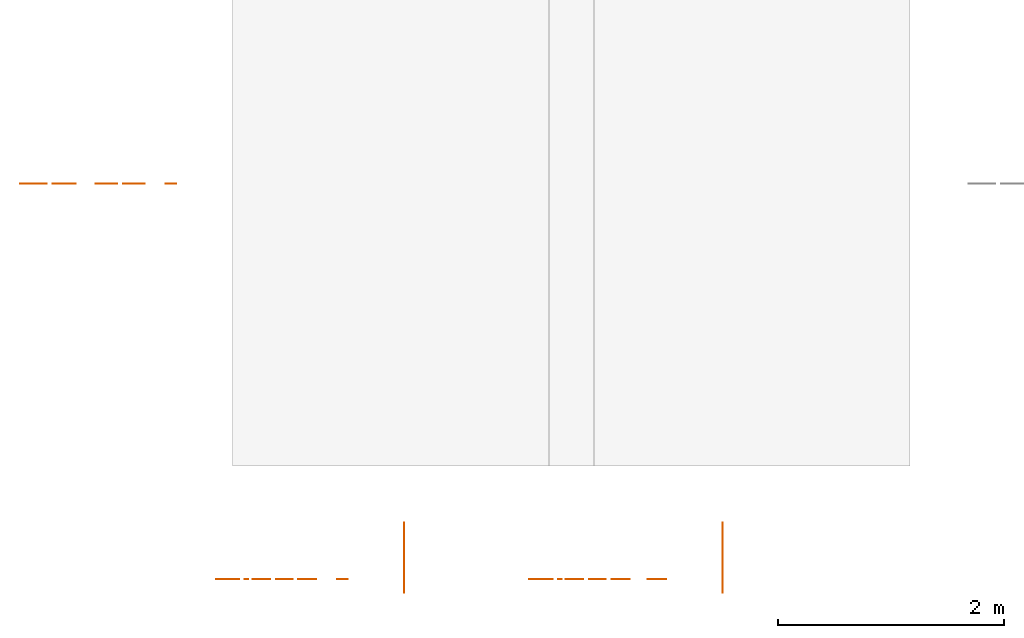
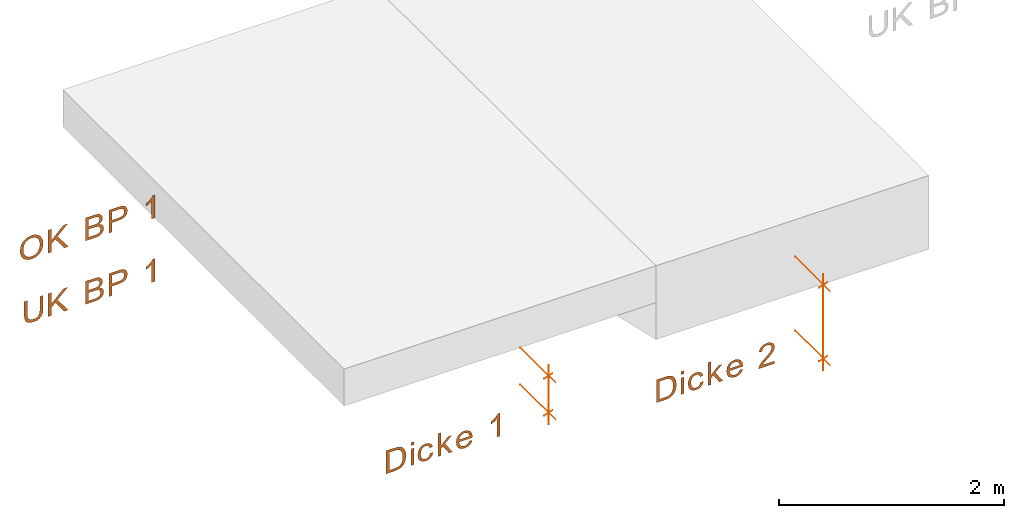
# One storey, part 2 of 3: 6 proxies, 6 elements without a shape of their own.
"""IFC4 building model written with IfcOpenShell, lengths in metres."""

from ifc_helpers import new_model, entity, si_unit, converted_unit, derived_unit, frame, origin, origin_with_axes, place, context, subcontext, project, spatial, open_shell, surface_model, source, transform, mapped, element, aggregate, save


model = new_model("IFC4")

# Units and contexts
model_context = context("Model", 3, precision=1e-05, world=origin())
body_context = subcontext(model_context, "Body", "Model", "MODEL_VIEW")
ifc_project = project(units=[si_unit("LENGTHUNIT", "METRE"), si_unit("AREAUNIT", "SQUARE_METRE"), si_unit("VOLUMEUNIT", "CUBIC_METRE"), si_unit("MASSUNIT", "GRAM", prefix="KILO"), converted_unit("PLANEANGLEUNIT", "DEGREE", entity("IfcPlaneAngleMeasure", 0.0174532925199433), si_unit("PLANEANGLEUNIT", "RADIAN"), dimensions=[0, 0, 0, 0, 0, 0, 0]), derived_unit("THERMALTRANSMITTANCEUNIT", [(si_unit("POWERUNIT", "WATT"), 1), (si_unit("THERMODYNAMICTEMPERATUREUNIT", "KELVIN"), -1), (si_unit("LENGTHUNIT", "METRE"), -2)]), derived_unit("VOLUMETRICFLOWRATEUNIT", [(si_unit("LENGTHUNIT", "METRE"), 3), (converted_unit("TIMEUNIT", "hour", entity("IfcTimeMeasure", 3600.0), si_unit("TIMEUNIT", "SECOND"), dimensions=[0, 0, 1, 0, 0, 0, 0]), -1), (si_unit("LENGTHUNIT", "METRE"), -1)])], contexts=[model_context])

# Site, building, storey
site_placement = place(None, origin())
site = spatial("IfcSite", under=ifc_project, at=site_placement, Name="Liegenschaft", CompositionType="ELEMENT")
building_placement = place(site_placement, origin())
building = spatial("IfcBuilding", under=site, at=building_placement, Name="Gebäude", CompositionType="ELEMENT")
storey_placement = place(building_placement, origin())
storey = spatial("IfcBuildingStorey", under=building, at=storey_placement, Name="Geschoss 01", CompositionType="ELEMENT", Elevation=0.0)

# Assembly, proxy
assembly_1_placement = place(storey_placement, origin())
assembly_1 = element("IfcElementAssembly", 1, at=assembly_1_placement, inside=storey, Name="SpatialDim_Group", PredefinedType="NOTDEFINED")
shared_shape_1 = source(origin_with_axes(), body_context, "Body", "SurfaceModel", [
    surface_model("IfcShellBasedSurfaceModel", [(0.388425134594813, 1.879375, 0.0), (0.357675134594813, 1.869, 0.0), (0.331300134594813, 1.851, 0.0), (0.311675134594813, 1.827, 0.0), (0.298675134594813, 1.797, 0.0), (0.294675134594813, 1.764, 0.0), (0.298425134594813, 1.7325, 0.0), (0.309675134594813, 1.704, 0.0), (0.329300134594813, 1.678625, 0.0), (0.355675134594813, 1.66, 0.0), (0.387800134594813, 1.64875, 0.0), (0.423675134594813, 1.645, 0.0), (0.458925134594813, 1.64875, 0.0), (0.489675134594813, 1.66, 0.0), (0.516550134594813, 1.678, 0.0), (0.536675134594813, 1.702, 0.0), (0.548800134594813, 1.731125, 0.0), (0.552675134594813, 1.764, 0.0), (0.543800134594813, 1.811875, 0.0), (0.517675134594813, 1.85, 0.0), (0.475550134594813, 1.87475, 0.0), (0.420675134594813, 1.883, 0.0), (0.380550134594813, 1.843, 0.0), (0.419675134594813, 1.849, 0.0), (0.467925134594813, 1.8425, 0.0), (0.499675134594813, 1.824, 0.0), (0.517675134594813, 1.79625, 0.0), (0.523675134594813, 1.764, 0.0), (0.520675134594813, 1.74, 0.0), (0.511675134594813, 1.719, 0.0), (0.496050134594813, 1.70175, 0.0), (0.476675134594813, 1.689, 0.0), (0.451675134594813, 1.681375, 0.0), (0.423675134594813, 1.679, 0.0), (0.381050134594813, 1.685, 0.0), (0.349675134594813, 1.703, 0.0), (0.329925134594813, 1.7305, 0.0), (0.323675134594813, 1.764, 0.0), (0.330300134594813, 1.797875, 0.0), (0.349675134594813, 1.825, 0.0)], [open_shell([[[0, 1, 2, 3, 4, 5, 6, 7, 8, 9, 10, 11, 12, 13, 14, 15, 16, 17, 18, 19, 20, 21], [22, 23, 24, 25, 26, 27, 28, 29, 30, 31, 32, 33, 34, 35, 36, 37, 38, 39]]], orient=[[False, False]])]),
    surface_model("IfcShellBasedSurfaceModel", [(0.298675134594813, 1.594, 0.0), (0.298675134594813, 1.561, 0.0), (0.385675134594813, 1.561, 0.0), (0.424675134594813, 1.521, 0.0), (0.298675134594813, 1.431, 0.0), (0.298675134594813, 1.387, 0.0), (0.447675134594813, 1.497, 0.0), (0.548675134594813, 1.393, 0.0), (0.548675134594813, 1.438, 0.0), (0.426675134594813, 1.561, 0.0), (0.548675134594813, 1.561, 0.0), (0.548675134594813, 1.594, 0.0)], [open_shell([[[0, 1, 2, 3, 4, 5, 6, 7, 8, 9, 10, 11]]], orient=[[False]])]),
    surface_model("IfcShellBasedSurfaceModel", [(0.298675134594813, 1.211, 0.0), (0.298675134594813, 1.116, 0.0), (0.299925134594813, 1.09375, 0.0), (0.302675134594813, 1.076, 0.0), (0.307925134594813, 1.061, 0.0), (0.314675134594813, 1.049, 0.0), (0.325175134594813, 1.038375, 0.0), (0.338675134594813, 1.03, 0.0), (0.354300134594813, 1.024625, 0.0), (0.370675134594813, 1.023, 0.0), (0.391050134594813, 1.026, 0.0), (0.407675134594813, 1.035, 0.0), (0.421800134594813, 1.050625, 0.0), (0.430675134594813, 1.07, 0.0), (0.441050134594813, 1.05475, 0.0), (0.453675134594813, 1.044, 0.0), (0.468800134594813, 1.03725, 0.0), (0.484675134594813, 1.035, 0.0), (0.501925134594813, 1.03775, 0.0), (0.517675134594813, 1.045, 0.0), (0.531800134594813, 1.057, 0.0), (0.540675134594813, 1.072, 0.0), (0.546925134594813, 1.092375, 0.0), (0.548675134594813, 1.118, 0.0), (0.548675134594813, 1.211, 0.0), (0.443425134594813, 1.105875, 0.0), (0.442675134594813, 1.124, 0.0), (0.442675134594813, 1.178, 0.0), (0.519675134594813, 1.178, 0.0), (0.519675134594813, 1.128, 0.0), (0.518425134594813, 1.105375, 0.0), (0.515675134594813, 1.091, 0.0), (0.510675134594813, 1.081, 0.0), (0.502675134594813, 1.074, 0.0), (0.492425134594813, 1.0695, 0.0), (0.480675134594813, 1.068, 0.0), (0.468550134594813, 1.0695, 0.0), (0.458675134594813, 1.074, 0.0), (0.450675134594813, 1.082375, 0.0), (0.445675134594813, 1.093, 0.0), (0.327800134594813, 1.10275, 0.0), (0.327675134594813, 1.116, 0.0), (0.327675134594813, 1.178, 0.0), (0.413675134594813, 1.178, 0.0), (0.413675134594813, 1.121, 0.0), (0.412425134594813, 1.0995, 0.0), (0.409675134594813, 1.084, 0.0), (0.403675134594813, 1.072875, 0.0), (0.394675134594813, 1.064, 0.0), (0.383425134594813, 1.058625, 0.0), (0.370675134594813, 1.057, 0.0), (0.359425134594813, 1.058375, 0.0), (0.349675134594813, 1.062, 0.0), (0.341550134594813, 1.068125, 0.0), (0.335675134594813, 1.075, 0.0), (0.331050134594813, 1.083375, 0.0), (0.328675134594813, 1.094, 0.0)], [open_shell([[[0, 1, 2, 3, 4, 5, 6, 7, 8, 9, 10, 11, 12, 13, 14, 15, 16, 17, 18, 19, 20, 21, 22, 23, 24], [25, 26, 27, 28, 29, 30, 31, 32, 33, 34, 35, 36, 37, 38, 39], [40, 41, 42, 43, 44, 45, 46, 47, 48, 49, 50, 51, 52, 53, 54, 55, 56]]], orient=[[False, False, False]])]),
    surface_model("IfcShellBasedSurfaceModel", [(0.298675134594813, 0.97, 0.0), (0.298675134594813, 0.937, 0.0), (0.400675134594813, 0.937, 0.0), (0.400675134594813, 0.873, 0.0), (0.406425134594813, 0.827875, 0.0), (0.422675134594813, 0.8, 0.0), (0.447425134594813, 0.78475, 0.0), (0.476675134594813, 0.78, 0.0), (0.494425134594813, 0.782125, 0.0), (0.510675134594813, 0.788, 0.0), (0.524175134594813, 0.796875, 0.0), (0.534675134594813, 0.808, 0.0), (0.542175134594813, 0.8215, 0.0), (0.546675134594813, 0.838, 0.0), (0.548425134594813, 0.854375, 0.0), (0.548675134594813, 0.876, 0.0), (0.548675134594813, 0.97, 0.0), (0.432675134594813, 0.845875, 0.0), (0.429675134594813, 0.873, 0.0), (0.429675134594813, 0.937, 0.0), (0.519675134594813, 0.937, 0.0), (0.519675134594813, 0.873, 0.0), (0.519050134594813, 0.85425, 0.0), (0.517675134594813, 0.843, 0.0), (0.511675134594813, 0.831, 0.0), (0.502675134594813, 0.822, 0.0), (0.489925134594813, 0.81575, 0.0), (0.475675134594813, 0.814, 0.0), (0.456050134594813, 0.8175, 0.0), (0.441675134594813, 0.827, 0.0)], [open_shell([[[0, 1, 2, 3, 4, 5, 6, 7, 8, 9, 10, 11, 12, 13, 14, 15, 16], [17, 18, 19, 20, 21, 22, 23, 24, 25, 26, 27, 28, 29]]], orient=[[False, False]])]),
    surface_model("IfcShellBasedSurfaceModel", [(0.298675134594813, 0.5, 0.0), (0.549675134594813, 0.5, 0.0), (0.549675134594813, 0.52, 0.0), (0.533175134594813, 0.53125, 0.0), (0.516675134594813, 0.547, 0.0), (0.500175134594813, 0.568, 0.0), (0.486675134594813, 0.592, 0.0), (0.457675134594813, 0.592, 0.0), (0.464425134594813, 0.57675, 0.0), (0.472675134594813, 0.56, 0.0), (0.484050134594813, 0.543625, 0.0), (0.494675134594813, 0.531, 0.0), (0.298675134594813, 0.531, 0.0)], [open_shell([[[0, 1, 2, 3, 4, 5, 6, 7, 8, 9, 10, 11, 12]]], orient=[[False]])]),
])
proxy_1_placement = place(assembly_1_placement, frame((6.65478167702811, 0.0345436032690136, 0.0), z_axis=(-1.22464679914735e-16, -1.0, 1.49975978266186e-32), x_axis=(1.22464679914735e-16, 0.0, 1.0)))
proxy_1 = element("IfcBuildingElementProxy", 2, at=proxy_1_placement, context=body_context, shape_type="MappedRepresentation", body=[
    mapped(shared_shape_1, transform((0.0, 0.0, 0.0), x_axis=(1.0, 0.0, 0.0), y_axis=(0.0, 1.0, 0.0), z_axis=(0.0, 0.0, 1.0), scale=1.0)),
])
aggregate(assembly_1, [proxy_1])

assembly_2_placement = place(storey_placement, origin())
assembly_2 = element("IfcElementAssembly", 3, at=assembly_2_placement, inside=storey, Name="SpatialDim_Group", PredefinedType="NOTDEFINED")
shared_shape_2 = source(origin_with_axes(), body_context, "Axis", "Curve3D", [
    entity("IfcPolyline", [entity("IfcCartesianPoint", [0.0500000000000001, 0.05, 0.0]), entity("IfcCartesianPoint", [0.2, 0.2, 0.0])]),
    entity("IfcPolyline", [entity("IfcCartesianPoint", [0.125, 0.0, 0.0]), entity("IfcCartesianPoint", [0.125, 0.624999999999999, 0.0])]),
    entity("IfcPolyline", [entity("IfcCartesianPoint", [0.85, 0.05, 0.0]), entity("IfcCartesianPoint", [1.0, 0.2, 0.0])]),
    entity("IfcPolyline", [entity("IfcCartesianPoint", [0.925, 0.0, 0.0]), entity("IfcCartesianPoint", [0.925, 0.624999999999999, 0.0])]),
    entity("IfcPolyline", [entity("IfcCartesianPoint", [0.0, 0.125, 0.0]), entity("IfcCartesianPoint", [1.05, 0.125, 0.0])]),
])
proxy_2_placement = place(assembly_2_placement, frame((10.9955469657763, -3.59045639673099, 0.125), z_axis=(1.0, 0.0, 1.22464679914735e-16), x_axis=(1.22464679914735e-16, 0.0, -1.0)))
proxy_2 = element("IfcBuildingElementProxy", 4, at=proxy_2_placement, Name="macro", context=body_context, shape_type="MappedRepresentation", body=[
    mapped(shared_shape_2, transform((0.0, 0.0, 0.0), x_axis=(1.0, 0.0, 0.0), y_axis=(0.0, 1.0, 0.0), z_axis=(0.0, 0.0, 1.0), scale=1.0)),
])
aggregate(assembly_2, [proxy_2])

assembly_3_placement = place(storey_placement, origin())
assembly_3 = element("IfcElementAssembly", 5, at=assembly_3_placement, inside=storey, Name="SpatialDim_Group", PredefinedType="NOTDEFINED")
shared_shape_3 = source(origin_with_axes(), body_context, "Body", "SurfaceModel", [
    surface_model("IfcShellBasedSurfaceModel", [(0.00999999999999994, 1.713, 0.0), (0.00999999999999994, 1.624, 0.0), (0.0112499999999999, 1.602125, 0.0), (0.0139999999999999, 1.584, 0.0), (0.0201249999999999, 1.5675, 0.0), (0.0269999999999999, 1.554, 0.0), (0.036875, 1.54225, 0.0), (0.049, 1.532, 0.0), (0.066, 1.522, 0.0), (0.086, 1.515, 0.0), (0.109875, 1.509625, 0.0), (0.136, 1.508, 0.0), (0.16825, 1.51075, 0.0), (0.196, 1.518, 0.0), (0.220125, 1.529875, 0.0), (0.239, 1.547, 0.0), (0.249375, 1.5635, 0.0), (0.256, 1.583, 0.0), (0.259125, 1.6025, 0.0), (0.26, 1.628, 0.0), (0.26, 1.713, 0.0), (0.0399999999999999, 1.60575, 0.0), (0.0389999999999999, 1.627, 0.0), (0.0389999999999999, 1.68, 0.0), (0.231, 1.68, 0.0), (0.231, 1.628, 0.0), (0.229625, 1.6025, 0.0), (0.226, 1.586, 0.0), (0.214875, 1.568625, 0.0), (0.197, 1.555, 0.0), (0.1715, 1.545125, 0.0), (0.137, 1.542, 0.0), (0.109875, 1.5435, 0.0), (0.0879999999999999, 1.548, 0.0), (0.069875, 1.556375, 0.0), (0.0569999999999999, 1.567, 0.0), (0.0489999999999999, 1.576875, 0.0), (0.0439999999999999, 1.589, 0.0)], [open_shell([[[0, 1, 2, 3, 4, 5, 6, 7, 8, 9, 10, 11, 12, 13, 14, 15, 16, 17, 18, 19, 20], [21, 22, 23, 24, 25, 26, 27, 28, 29, 30, 31, 32, 33, 34, 35, 36, 37]]], orient=[[False, False]])]),
    surface_model("IfcShellBasedSurfaceModel", [(0.01, 1.459, 0.0), (0.01, 1.428, 0.0), (0.191, 1.428, 0.0), (0.191, 1.459, 0.0), (0.226, 1.459, 0.0), (0.226, 1.428, 0.0), (0.26, 1.428, 0.0), (0.26, 1.459, 0.0)], [open_shell([[[0, 1, 2, 3]], [[4, 5, 6, 7]]], orient=[[False], [False]])]),
    surface_model("IfcShellBasedSurfaceModel", [(0.076, 1.261, 0.0), (0.055625, 1.26675, 0.0), (0.042, 1.277, 0.0), (0.0335, 1.2905, 0.0), (0.031, 1.307, 0.0), (0.035375, 1.328125, 0.0), (0.048, 1.344, 0.0), (0.069625, 1.35475, 0.0), (0.101, 1.358, 0.0), (0.13225, 1.354375, 0.0), (0.153, 1.344, 0.0), (0.166, 1.326875, 0.0), (0.17, 1.306, 0.0), (0.16775, 1.291875, 0.0), (0.161, 1.28, 0.0), (0.148875, 1.27025, 0.0), (0.133, 1.265, 0.0), (0.137, 1.234, 0.0), (0.161875, 1.243, 0.0), (0.18, 1.258, 0.0), (0.19125, 1.27975, 0.0), (0.195, 1.306, 0.0), (0.192125, 1.329125, 0.0), (0.184, 1.35, 0.0), (0.16975, 1.3675, 0.0), (0.151, 1.379, 0.0), (0.127, 1.386625, 0.0), (0.1, 1.389, 0.0), (0.05975, 1.383125, 0.0), (0.03, 1.366, 0.0), (0.012, 1.339, 0.0), (0.006, 1.306, 0.0), (0.0105, 1.278375, 0.0), (0.024, 1.256, 0.0), (0.045, 1.238875, 0.0), (0.072, 1.23, 0.0)], [open_shell([[[0, 1, 2, 3, 4, 5, 6, 7, 8, 9, 10, 11, 12, 13, 14, 15, 16, 17, 18, 19, 20, 21, 22, 23, 24, 25, 26, 27, 28, 29, 30, 31, 32, 33, 34, 35]]], orient=[[False]])]),
    surface_model("IfcShellBasedSurfaceModel", [(0.01, 1.182, 0.0), (0.01, 1.151, 0.0), (0.082, 1.151, 0.0), (0.103, 1.13, 0.0), (0.01, 1.068, 0.0), (0.0100000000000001, 1.031, 0.0), (0.124, 1.108, 0.0), (0.191, 1.038, 0.0), (0.191, 1.078, 0.0), (0.118, 1.151, 0.0), (0.26, 1.151, 0.0), (0.26, 1.182, 0.0)], [open_shell([[[0, 1, 2, 3, 4, 5, 6, 7, 8, 9, 10, 11]]], orient=[[False]])]),
    surface_model("IfcShellBasedSurfaceModel", [(0.0680000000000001, 0.858, 0.0), (0.0513750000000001, 0.866875, 0.0), (0.0400000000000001, 0.878, 0.0), (0.0332500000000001, 0.891375, 0.0), (0.0310000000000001, 0.907, 0.0), (0.03525, 0.92875, 0.0), (0.047, 0.946, 0.0), (0.066625, 0.957875, 0.0), (0.093, 0.963, 0.0), (0.0930000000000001, 0.826, 0.0), (0.0977500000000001, 0.826, 0.0), (0.101, 0.826, 0.0), (0.14075, 0.831875, 0.0), (0.17, 0.849, 0.0), (0.188875, 0.876, 0.0), (0.195, 0.909, 0.0), (0.1885, 0.943625, 0.0), (0.17, 0.97, 0.0), (0.139375, 0.988, 0.0), (0.099, 0.994, 0.0), (0.05925, 0.988125, 0.0), (0.0300000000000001, 0.971, 0.0), (0.0120000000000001, 0.94275, 0.0), (0.00600000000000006, 0.907, 0.0), (0.00975000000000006, 0.877625, 0.0), (0.0210000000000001, 0.855, 0.0), (0.0395000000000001, 0.837625, 0.0), (0.0640000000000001, 0.827, 0.0), (0.137625, 0.86175, 0.0), (0.118, 0.858, 0.0), (0.118, 0.962, 0.0), (0.139625, 0.956625, 0.0), (0.156, 0.946, 0.0), (0.16675, 0.929, 0.0), (0.17, 0.909, 0.0), (0.1655, 0.88725, 0.0), (0.152, 0.87, 0.0)], [open_shell([[[0, 1, 2, 3, 4, 5, 6, 7, 8, 9, 10, 11, 12, 13, 14, 15, 16, 17, 18, 19, 20, 21, 22, 23, 24, 25, 26, 27], [28, 29, 30, 31, 32, 33, 34, 35, 36]]], orient=[[False, False]])]),
    surface_model("IfcShellBasedSurfaceModel", [(0.0390000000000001, 0.5, 0.0), (0.0390000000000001, 0.623, 0.0), (0.0475000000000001, 0.616875, 0.0), (0.0560000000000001, 0.61, 0.0), (0.0681250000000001, 0.5965, 0.0), (0.0870000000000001, 0.574, 0.0), (0.112375, 0.545625, 0.0), (0.131, 0.527, 0.0), (0.147625, 0.51425, 0.0), (0.162, 0.506, 0.0), (0.177, 0.5015, 0.0), (0.192, 0.5, 0.0), (0.219125, 0.50525, 0.0), (0.241, 0.521, 0.0), (0.25625, 0.54575, 0.0), (0.261, 0.578, 0.0), (0.2565, 0.61025, 0.0), (0.243, 0.635, 0.0), (0.21975, 0.652375, 0.0), (0.189, 0.66, 0.0), (0.185, 0.629, 0.0), (0.2065, 0.625375, 0.0), (0.222, 0.615, 0.0), (0.23275, 0.59925, 0.0), (0.236, 0.579, 0.0), (0.2325, 0.559625, 0.0), (0.223, 0.544, 0.0), (0.2095, 0.534125, 0.0), (0.193, 0.531, 0.0), (0.174375, 0.53475, 0.0), (0.155, 0.546, 0.0), (0.131875, 0.567625, 0.0), (0.102, 0.602, 0.0), (0.0818750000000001, 0.625375, 0.0), (0.0640000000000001, 0.642, 0.0), (0.0475000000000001, 0.65425, 0.0), (0.0310000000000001, 0.662, 0.0), (0.0205000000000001, 0.665125, 0.0), (0.0100000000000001, 0.666, 0.0), (0.0100000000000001, 0.5, 0.0)], [open_shell([[[0, 1, 2, 3, 4, 5, 6, 7, 8, 9, 10, 11, 12, 13, 14, 15, 16, 17, 18, 19, 20, 21, 22, 23, 24, 25, 26, 27, 28, 29, 30, 31, 32, 33, 34, 35, 36, 37, 38, 39]]], orient=[[False]])]),
])
proxy_3_placement = place(assembly_3_placement, frame((10.9955469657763, -3.46545639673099, -0.688675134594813), z_axis=(-1.22464679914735e-16, -1.0, 1.49975978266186e-32), x_axis=(1.22464679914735e-16, 0.0, 1.0)))
proxy_3 = element("IfcBuildingElementProxy", 6, at=proxy_3_placement, Name="macro", context=body_context, shape_type="MappedRepresentation", body=[
    mapped(shared_shape_3, transform((0.0, 0.0, 0.0), x_axis=(1.0, 0.0, 0.0), y_axis=(0.0, 1.0, 0.0), z_axis=(0.0, 0.0, 1.0), scale=1.0)),
])
aggregate(assembly_3, [proxy_3])

assembly_4_placement = place(storey_placement, origin())
assembly_4 = element("IfcElementAssembly", 7, at=assembly_4_placement, inside=storey, Name="SpatialDim_Group", PredefinedType="NOTDEFINED")
shared_shape_4 = source(origin_with_axes(), body_context, "Axis", "Curve3D", [
    entity("IfcPolyline", [entity("IfcCartesianPoint", [0.05, 0.05, 0.0]), entity("IfcCartesianPoint", [0.2, 0.2, 0.0])]),
    entity("IfcPolyline", [entity("IfcCartesianPoint", [0.125, 0.0, 0.0]), entity("IfcCartesianPoint", [0.125, 0.625, 0.0])]),
    entity("IfcPolyline", [entity("IfcCartesianPoint", [0.45, 0.05, 0.0]), entity("IfcCartesianPoint", [0.6, 0.2, 0.0])]),
    entity("IfcPolyline", [entity("IfcCartesianPoint", [0.525, 0.0, 0.0]), entity("IfcCartesianPoint", [0.525, 0.625, 0.0])]),
    entity("IfcPolyline", [entity("IfcCartesianPoint", [0.0, 0.125, 0.0]), entity("IfcCartesianPoint", [0.65, 0.125, 0.0])]),
])
proxy_4_placement = place(assembly_4_placement, frame((8.17483843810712, -3.59045639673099, 0.125), z_axis=(1.0, 0.0, 1.22464679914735e-16), x_axis=(1.22464679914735e-16, 0.0, -1.0)))
proxy_4 = element("IfcBuildingElementProxy", 8, at=proxy_4_placement, Name="macro", context=body_context, shape_type="MappedRepresentation", body=[
    mapped(shared_shape_4, transform((0.0, 0.0, 0.0), x_axis=(1.0, 0.0, 0.0), y_axis=(0.0, 1.0, 0.0), z_axis=(0.0, 0.0, 1.0), scale=1.0)),
])
aggregate(assembly_4, [proxy_4])

assembly_5_placement = place(storey_placement, origin())
assembly_5 = element("IfcElementAssembly", 9, at=assembly_5_placement, inside=storey, Name="SpatialDim_Group", PredefinedType="NOTDEFINED")
shared_shape_5 = source(origin_with_axes(), body_context, "Body", "SurfaceModel", [
    surface_model("IfcShellBasedSurfaceModel", [(0.00999999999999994, 1.667, 0.0), (0.00999999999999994, 1.578, 0.0), (0.0112499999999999, 1.556125, 0.0), (0.0139999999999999, 1.538, 0.0), (0.0201249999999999, 1.5215, 0.0), (0.0269999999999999, 1.508, 0.0), (0.036875, 1.49625, 0.0), (0.049, 1.486, 0.0), (0.066, 1.476, 0.0), (0.086, 1.469, 0.0), (0.109875, 1.463625, 0.0), (0.136, 1.462, 0.0), (0.16825, 1.46475, 0.0), (0.196, 1.472, 0.0), (0.220125, 1.483875, 0.0), (0.239, 1.501, 0.0), (0.249375, 1.5175, 0.0), (0.256, 1.537, 0.0), (0.259125, 1.5565, 0.0), (0.26, 1.582, 0.0), (0.26, 1.667, 0.0), (0.0399999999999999, 1.55975, 0.0), (0.0389999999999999, 1.581, 0.0), (0.0389999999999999, 1.634, 0.0), (0.231, 1.634, 0.0), (0.231, 1.582, 0.0), (0.229625, 1.5565, 0.0), (0.226, 1.54, 0.0), (0.214875, 1.522625, 0.0), (0.197, 1.509, 0.0), (0.1715, 1.499125, 0.0), (0.137, 1.496, 0.0), (0.109875, 1.4975, 0.0), (0.0879999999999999, 1.502, 0.0), (0.069875, 1.510375, 0.0), (0.0569999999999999, 1.521, 0.0), (0.0489999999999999, 1.530875, 0.0), (0.0439999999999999, 1.543, 0.0)], [open_shell([[[0, 1, 2, 3, 4, 5, 6, 7, 8, 9, 10, 11, 12, 13, 14, 15, 16, 17, 18, 19, 20], [21, 22, 23, 24, 25, 26, 27, 28, 29, 30, 31, 32, 33, 34, 35, 36, 37]]], orient=[[False, False]])]),
    surface_model("IfcShellBasedSurfaceModel", [(0.01, 1.413, 0.0), (0.01, 1.382, 0.0), (0.191, 1.382, 0.0), (0.191, 1.413, 0.0), (0.226, 1.413, 0.0), (0.226, 1.382, 0.0), (0.26, 1.382, 0.0), (0.26, 1.413, 0.0)], [open_shell([[[0, 1, 2, 3]], [[4, 5, 6, 7]]], orient=[[False], [False]])]),
    surface_model("IfcShellBasedSurfaceModel", [(0.076, 1.215, 0.0), (0.055625, 1.22075, 0.0), (0.042, 1.231, 0.0), (0.0335, 1.2445, 0.0), (0.031, 1.261, 0.0), (0.035375, 1.282125, 0.0), (0.048, 1.298, 0.0), (0.069625, 1.30875, 0.0), (0.101, 1.312, 0.0), (0.13225, 1.308375, 0.0), (0.153, 1.298, 0.0), (0.166, 1.280875, 0.0), (0.17, 1.26, 0.0), (0.16775, 1.245875, 0.0), (0.161, 1.234, 0.0), (0.148875, 1.22425, 0.0), (0.133, 1.219, 0.0), (0.137, 1.188, 0.0), (0.161875, 1.197, 0.0), (0.18, 1.212, 0.0), (0.19125, 1.23375, 0.0), (0.195, 1.26, 0.0), (0.192125, 1.283125, 0.0), (0.184, 1.304, 0.0), (0.16975, 1.3215, 0.0), (0.151, 1.333, 0.0), (0.127, 1.340625, 0.0), (0.1, 1.343, 0.0), (0.05975, 1.337125, 0.0), (0.03, 1.32, 0.0), (0.012, 1.293, 0.0), (0.006, 1.26, 0.0), (0.0105, 1.232375, 0.0), (0.024, 1.21, 0.0), (0.045, 1.192875, 0.0), (0.072, 1.184, 0.0)], [open_shell([[[0, 1, 2, 3, 4, 5, 6, 7, 8, 9, 10, 11, 12, 13, 14, 15, 16, 17, 18, 19, 20, 21, 22, 23, 24, 25, 26, 27, 28, 29, 30, 31, 32, 33, 34, 35]]], orient=[[False]])]),
    surface_model("IfcShellBasedSurfaceModel", [(0.01, 1.136, 0.0), (0.01, 1.105, 0.0), (0.082, 1.105, 0.0), (0.103, 1.084, 0.0), (0.01, 1.022, 0.0), (0.0100000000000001, 0.985, 0.0), (0.124, 1.062, 0.0), (0.191, 0.992, 0.0), (0.191, 1.032, 0.0), (0.118, 1.105, 0.0), (0.26, 1.105, 0.0), (0.26, 1.136, 0.0)], [open_shell([[[0, 1, 2, 3, 4, 5, 6, 7, 8, 9, 10, 11]]], orient=[[False]])]),
    surface_model("IfcShellBasedSurfaceModel", [(0.0680000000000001, 0.812, 0.0), (0.0513750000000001, 0.820875, 0.0), (0.0400000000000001, 0.832, 0.0), (0.0332500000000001, 0.845375, 0.0), (0.0310000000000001, 0.861, 0.0), (0.03525, 0.88275, 0.0), (0.047, 0.9, 0.0), (0.066625, 0.911875, 0.0), (0.093, 0.917, 0.0), (0.0930000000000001, 0.78, 0.0), (0.0977500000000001, 0.78, 0.0), (0.101, 0.78, 0.0), (0.14075, 0.785875, 0.0), (0.17, 0.803, 0.0), (0.188875, 0.83, 0.0), (0.195, 0.863, 0.0), (0.1885, 0.897625, 0.0), (0.17, 0.924, 0.0), (0.139375, 0.942, 0.0), (0.099, 0.948, 0.0), (0.05925, 0.942125, 0.0), (0.0300000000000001, 0.925, 0.0), (0.0120000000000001, 0.89675, 0.0), (0.00600000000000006, 0.861, 0.0), (0.00975000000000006, 0.831625, 0.0), (0.0210000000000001, 0.809, 0.0), (0.0395000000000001, 0.791625, 0.0), (0.0640000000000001, 0.781, 0.0), (0.137625, 0.81575, 0.0), (0.118, 0.812, 0.0), (0.118, 0.916, 0.0), (0.139625, 0.910625, 0.0), (0.156, 0.9, 0.0), (0.16675, 0.883, 0.0), (0.17, 0.863, 0.0), (0.1655, 0.84125, 0.0), (0.152, 0.824, 0.0)], [open_shell([[[0, 1, 2, 3, 4, 5, 6, 7, 8, 9, 10, 11, 12, 13, 14, 15, 16, 17, 18, 19, 20, 21, 22, 23, 24, 25, 26, 27], [28, 29, 30, 31, 32, 33, 34, 35, 36]]], orient=[[False, False]])]),
    surface_model("IfcShellBasedSurfaceModel", [(0.0100000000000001, 0.5, 0.0), (0.261, 0.5, 0.0), (0.261, 0.52, 0.0), (0.2445, 0.53125, 0.0), (0.228, 0.547, 0.0), (0.2115, 0.568000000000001, 0.0), (0.198, 0.592, 0.0), (0.169, 0.592, 0.0), (0.17575, 0.57675, 0.0), (0.184, 0.56, 0.0), (0.195375, 0.543625, 0.0), (0.206, 0.531, 0.0), (0.0100000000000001, 0.531, 0.0)], [open_shell([[[0, 1, 2, 3, 4, 5, 6, 7, 8, 9, 10, 11, 12]]], orient=[[False]])]),
])
proxy_5_placement = place(assembly_5_placement, frame((8.17483843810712, -3.46545639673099, -0.488675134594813), z_axis=(-1.22464679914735e-16, -1.0, 1.49975978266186e-32), x_axis=(1.22464679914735e-16, 0.0, 1.0)))
proxy_5 = element("IfcBuildingElementProxy", 10, at=proxy_5_placement, Name="macro", context=body_context, shape_type="MappedRepresentation", body=[
    mapped(shared_shape_5, transform((0.0, 0.0, 0.0), x_axis=(1.0, 0.0, 0.0), y_axis=(0.0, 1.0, 0.0), z_axis=(0.0, 0.0, 1.0), scale=1.0)),
])
aggregate(assembly_5, [proxy_5])

assembly_6_placement = place(storey_placement, origin())
assembly_6 = element("IfcElementAssembly", 11, at=assembly_6_placement, inside=storey, Name="SpatialDim_Group", PredefinedType="NOTDEFINED")
shared_shape_6 = source(origin_with_axes(), body_context, "Body", "SurfaceModel", [
    surface_model("IfcShellBasedSurfaceModel", [(0.26, 1.679, 0.0), (0.117, 1.679, 0.0), (0.0771249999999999, 1.68275, 0.0), (0.0529999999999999, 1.694, 0.0), (0.0408749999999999, 1.71425, 0.0), (0.0369999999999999, 1.745, 0.0), (0.0391249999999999, 1.7645, 0.0), (0.0449999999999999, 1.781, 0.0), (0.0554999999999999, 1.79325, 0.0), (0.0689999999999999, 1.801, 0.0), (0.0884999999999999, 1.8055, 0.0), (0.117, 1.807, 0.0), (0.26, 1.807, 0.0), (0.26, 1.841, 0.0), (0.116, 1.841, 0.0), (0.0799999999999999, 1.83825, 0.0), (0.0529999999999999, 1.831, 0.0), (0.0324999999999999, 1.8185, 0.0), (0.0179999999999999, 1.8, 0.0), (0.00899999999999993, 1.773625, 0.0), (0.00599999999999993, 1.742, 0.0), (0.00962499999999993, 1.70925, 0.0), (0.0199999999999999, 1.684, 0.0), (0.0364999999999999, 1.665125, 0.0), (0.0559999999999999, 1.653, 0.0), (0.0822499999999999, 1.64675, 0.0), (0.116, 1.645, 0.0), (0.26, 1.645, 0.0)], [open_shell([[[0, 1, 2, 3, 4, 5, 6, 7, 8, 9, 10, 11, 12, 13, 14, 15, 16, 17, 18, 19, 20, 21, 22, 23, 24, 25, 26, 27]]], orient=[[False]])]),
    surface_model("IfcShellBasedSurfaceModel", [(0.00999999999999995, 1.594, 0.0), (0.00999999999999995, 1.561, 0.0), (0.0969999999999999, 1.561, 0.0), (0.136, 1.521, 0.0), (0.00999999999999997, 1.431, 0.0), (0.00999999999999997, 1.387, 0.0), (0.159, 1.497, 0.0), (0.26, 1.393, 0.0), (0.26, 1.438, 0.0), (0.138, 1.561, 0.0), (0.26, 1.561, 0.0), (0.26, 1.594, 0.0)], [open_shell([[[0, 1, 2, 3, 4, 5, 6, 7, 8, 9, 10, 11]]], orient=[[False]])]),
    surface_model("IfcShellBasedSurfaceModel", [(0.01, 1.211, 0.0), (0.01, 1.116, 0.0), (0.01125, 1.09375, 0.0), (0.014, 1.076, 0.0), (0.01925, 1.061, 0.0), (0.026, 1.049, 0.0), (0.0365, 1.038375, 0.0), (0.05, 1.03, 0.0), (0.065625, 1.024625, 0.0), (0.082, 1.023, 0.0), (0.102375, 1.026, 0.0), (0.119, 1.035, 0.0), (0.133125, 1.050625, 0.0), (0.142, 1.07, 0.0), (0.152375, 1.05475, 0.0), (0.165, 1.044, 0.0), (0.180125, 1.03725, 0.0), (0.196, 1.035, 0.0), (0.21325, 1.03775, 0.0), (0.229, 1.045, 0.0), (0.243125, 1.057, 0.0), (0.252, 1.072, 0.0), (0.25825, 1.092375, 0.0), (0.26, 1.118, 0.0), (0.26, 1.211, 0.0), (0.15475, 1.105875, 0.0), (0.154, 1.124, 0.0), (0.154, 1.178, 0.0), (0.231, 1.178, 0.0), (0.231, 1.128, 0.0), (0.22975, 1.105375, 0.0), (0.227, 1.091, 0.0), (0.222, 1.081, 0.0), (0.214, 1.074, 0.0), (0.20375, 1.0695, 0.0), (0.192, 1.068, 0.0), (0.179875, 1.0695, 0.0), (0.17, 1.074, 0.0), (0.162, 1.082375, 0.0), (0.157, 1.093, 0.0), (0.039125, 1.10275, 0.0), (0.039, 1.116, 0.0), (0.039, 1.178, 0.0), (0.125, 1.178, 0.0), (0.125, 1.121, 0.0), (0.12375, 1.0995, 0.0), (0.121, 1.084, 0.0), (0.115, 1.072875, 0.0), (0.106, 1.064, 0.0), (0.09475, 1.058625, 0.0), (0.082, 1.057, 0.0), (0.07075, 1.058375, 0.0), (0.061, 1.062, 0.0), (0.052875, 1.068125, 0.0), (0.047, 1.075, 0.0), (0.042375, 1.083375, 0.0), (0.04, 1.094, 0.0)], [open_shell([[[0, 1, 2, 3, 4, 5, 6, 7, 8, 9, 10, 11, 12, 13, 14, 15, 16, 17, 18, 19, 20, 21, 22, 23, 24], [25, 26, 27, 28, 29, 30, 31, 32, 33, 34, 35, 36, 37, 38, 39], [40, 41, 42, 43, 44, 45, 46, 47, 48, 49, 50, 51, 52, 53, 54, 55, 56]]], orient=[[False, False, False]])]),
    surface_model("IfcShellBasedSurfaceModel", [(0.01, 0.97, 0.0), (0.01, 0.937, 0.0), (0.112, 0.937, 0.0), (0.112, 0.873, 0.0), (0.11775, 0.827875, 0.0), (0.134, 0.8, 0.0), (0.15875, 0.78475, 0.0), (0.188, 0.78, 0.0), (0.20575, 0.782125, 0.0), (0.222, 0.788, 0.0), (0.2355, 0.796875, 0.0), (0.246, 0.808, 0.0), (0.2535, 0.8215, 0.0), (0.258, 0.838, 0.0), (0.25975, 0.854375, 0.0), (0.26, 0.876, 0.0), (0.26, 0.97, 0.0), (0.144, 0.845875, 0.0), (0.141, 0.873, 0.0), (0.141, 0.937, 0.0), (0.231, 0.937, 0.0), (0.231, 0.873, 0.0), (0.230375, 0.85425, 0.0), (0.229, 0.843, 0.0), (0.223, 0.831, 0.0), (0.214, 0.822, 0.0), (0.20125, 0.81575, 0.0), (0.187, 0.814, 0.0), (0.167375, 0.8175, 0.0), (0.153, 0.827, 0.0)], [open_shell([[[0, 1, 2, 3, 4, 5, 6, 7, 8, 9, 10, 11, 12, 13, 14, 15, 16], [17, 18, 19, 20, 21, 22, 23, 24, 25, 26, 27, 28, 29]]], orient=[[False, False]])]),
    surface_model("IfcShellBasedSurfaceModel", [(0.0100000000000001, 0.5, 0.0), (0.261, 0.5, 0.0), (0.261, 0.52, 0.0), (0.2445, 0.53125, 0.0), (0.228, 0.547, 0.0), (0.2115, 0.568, 0.0), (0.198, 0.592, 0.0), (0.169, 0.592, 0.0), (0.17575, 0.57675, 0.0), (0.184, 0.56, 0.0), (0.195375, 0.543625, 0.0), (0.206, 0.531, 0.0), (0.0100000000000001, 0.531, 0.0)], [open_shell([[[0, 1, 2, 3, 4, 5, 6, 7, 8, 9, 10, 11, 12]]], orient=[[False]])]),
])
proxy_6_placement = place(assembly_6_placement, frame((6.65478167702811, 0.0345436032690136, -0.4), z_axis=(-1.22464679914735e-16, -1.0, 1.49975978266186e-32), x_axis=(1.22464679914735e-16, 0.0, 1.0)))
proxy_6 = element("IfcBuildingElementProxy", 12, at=proxy_6_placement, Name="macro", context=body_context, shape_type="MappedRepresentation", body=[
    mapped(shared_shape_6, transform((0.0, 0.0, 0.0), x_axis=(1.0, 0.0, 0.0), y_axis=(0.0, 1.0, 0.0), z_axis=(0.0, 0.0, 1.0), scale=1.0)),
])
aggregate(assembly_6, [proxy_6])

save(model, "model.ifc")
